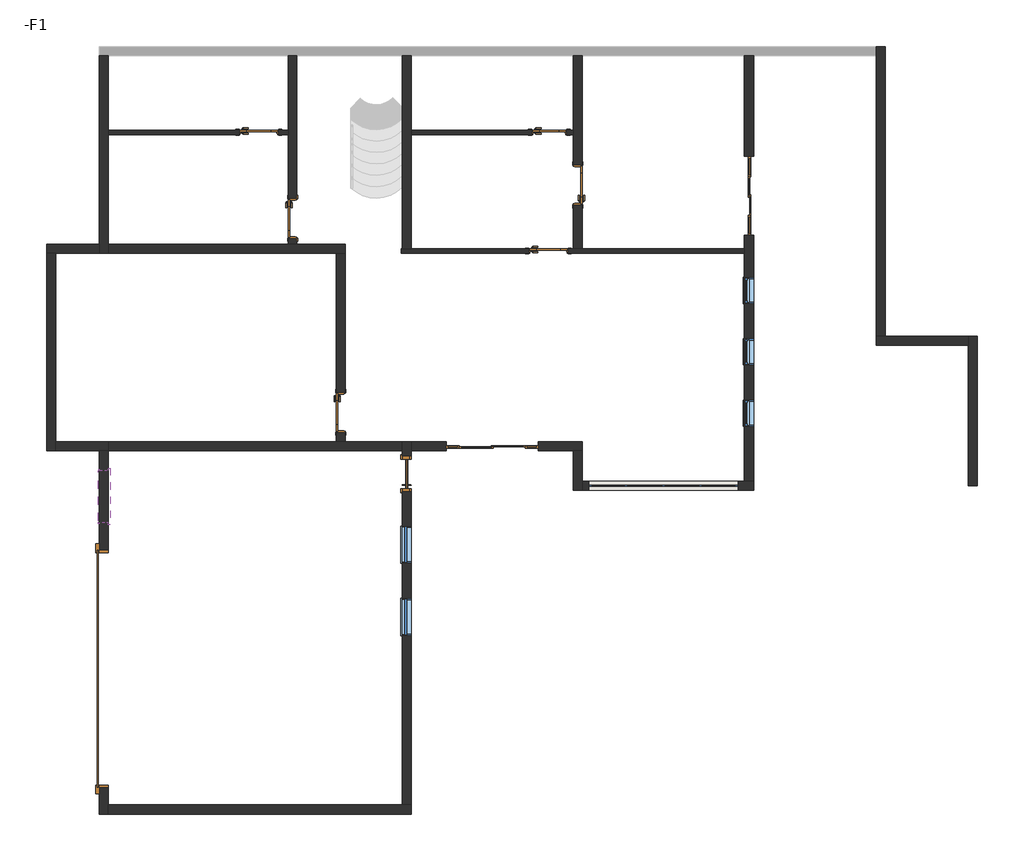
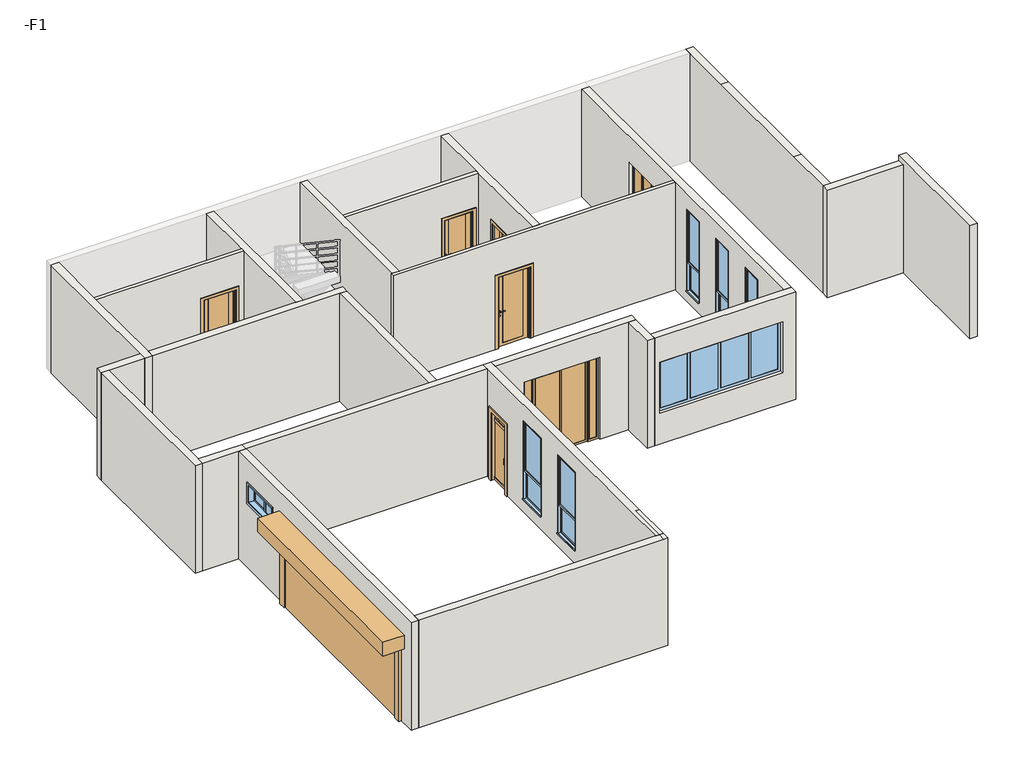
# One storey, part 1 of 3: 23 walls, 10 doors, 7 windows.
"""IFC4 building model written with IfcOpenShell, lengths in millimetres."""

from ifc_helpers import new_model, si_unit, frame, origin, place, context, project, spatial, polyline, outline, extrude, faceted_brep, transform, mapped, element, save
from components import door_800_x_2100_mm_cdd5fc6d, door_900_x_2100_mm_c85060e9, door_900_x_2100_mm_efe0f083, jlm5422_f6e8e53c, m0821_c18f4d9a, ym2124_6b214408, ym3267_0cb6c473, c0624_d918e3f5, c0823_e49a13fc, c1206_2babd59b, c3415_a57d7b54

model = new_model("IFC4")

# Units and contexts
model_context = context("Model", 3, world=origin())
ifc_project = project(units=[si_unit("LENGTHUNIT", "METRE", prefix="MILLI")], contexts=[model_context])

# Site, building, storey
site = spatial("IfcSite", under=ifc_project)
building = spatial("IfcBuilding", under=site)
storey = spatial("IfcBuildingStorey", under=building, Name="-F1", Elevation=-3300.0)

# Doors
placement = place(None, origin())
door_800_x_2100_mm_shape = door_800_x_2100_mm_cdd5fc6d(model_context)
element("IfcDoor", 1, ObjectType="单扇平开门-木门 : 800 x 2100 mm", at=placement, inside=storey, context=model_context, shape_type="MappedRepresentation", body=[
    mapped(door_800_x_2100_mm_shape, transform((-6705.9782681, -1381.0286905, -3300.0), x_axis=(1.0, 0.0, 0.0), y_axis=(0.0, 1.0, 0.0), z_axis=(0.0, 0.0, 1.0))),
])
door_900_x_2100_mm_shape = door_900_x_2100_mm_c85060e9(model_context)
element("IfcDoor", 2, ObjectType="单扇平开门-木门 : 900 x 2100 mm", at=placement, inside=storey, context=model_context, shape_type="MappedRepresentation", body=[
    mapped(door_900_x_2100_mm_shape, transform((-6055.9782681, -2581.0286905, -3300.0), x_axis=(0.0, 1.0, 0.0), y_axis=(-1.0, 0.0, 0.0), z_axis=(0.0, 0.0, 1.0))),
])
element("IfcDoor", 3, ObjectType="单扇平开门-木门 : 900 x 2100 mm", at=placement, inside=storey, context=model_context, shape_type="MappedRepresentation", body=[
    mapped(door_900_x_2100_mm_shape, transform((-12555.9782681, -3341.0286905, -3300.0), x_axis=(0.0, -1.0, 0.0), y_axis=(1.0, 0.0, 0.0), z_axis=(0.0, 0.0, 1.0))),
])
element("IfcDoor", 4, ObjectType="单扇平开门-木门 : 900 x 2100 mm", at=placement, inside=storey, context=model_context, shape_type="MappedRepresentation", body=[
    mapped(door_900_x_2100_mm_shape, transform((-11455.9782681, -7761.0286905, -3300.0), x_axis=(0.0, -1.0, 0.0), y_axis=(1.0, 0.0, 0.0), z_axis=(0.0, 0.0, 1.0))),
])
door_900_x_2100_mm_2_shape = door_900_x_2100_mm_efe0f083(model_context)
element("IfcDoor", 5, ObjectType="单扇平开门-木门 : 900 x 2100 mm", at=placement, inside=storey, context=model_context, shape_type="MappedRepresentation", body=[
    mapped(door_900_x_2100_mm_2_shape, transform((-6725.9782681, -4081.0286905, -3300.0), x_axis=(1.0, 0.0, 0.0), y_axis=(0.0, 1.0, 0.0), z_axis=(0.0, 0.0, 1.0))),
])
element("IfcDoor", 6, ObjectType="单扇平开门-木门 : 900 x 2100 mm", at=placement, inside=storey, context=model_context, shape_type="MappedRepresentation", body=[
    mapped(door_900_x_2100_mm_2_shape, transform((-13325.9782681, -1381.0286905, -3300.0), x_axis=(1.0, 0.0, 0.0), y_axis=(0.0, 1.0, 0.0), z_axis=(0.0, 0.0, 1.0))),
])
jlm5422_shape = jlm5422_f6e8e53c(model_context)
element("IfcDoor", 7, ObjectType="卷帘门 : JLM5422", at=placement, inside=storey, context=model_context, shape_type="MappedRepresentation", body=[
    mapped(jlm5422_shape, transform((-16855.9782681, -13606.0286905, -3300.0), x_axis=(0.0, 1.0, 0.0), y_axis=(-1.0, 0.0, 0.0), z_axis=(0.0, 0.0, 1.0))),
])
m0821_shape = m0821_c18f4d9a(model_context)
element("IfcDoor", 8, ObjectType="平开玻璃门B-单扇2 : M0821", at=placement, inside=storey, context=model_context, shape_type="MappedRepresentation", body=[
    mapped(m0821_shape, transform((-9955.9782681, -8911.0286905, -3300.0), x_axis=(0.0, 1.0, 0.0), y_axis=(-1.0, 0.0, 0.0), z_axis=(0.0, 0.0, 1.0))),
])
ym2124_shape = ym2124_6b214408(model_context)
element("IfcDoor", 9, ObjectType="移门-推拉门 : YM2124", at=placement, inside=storey, context=model_context, shape_type="MappedRepresentation", body=[
    mapped(ym2124_shape, transform((-8005.9782681, -8531.0286905, -3300.0), x_axis=(-1.0, 0.0, 0.0), y_axis=(0.0, -1.0, 0.0), z_axis=(0.0, 0.0, 1.0))),
])
ym3267_shape = ym3267_0cb6c473(model_context)
element("IfcDoor", 10, ObjectType="移门-推拉门 : YM3267", at=placement, inside=storey, context=model_context, shape_type="MappedRepresentation", body=[
    mapped(ym3267_shape, transform((-2155.9782681, -2831.0286905, -3300.0), x_axis=(0.0, -1.0, 0.0), y_axis=(1.0, 0.0, 0.0), z_axis=(0.0, 0.0, 1.0))),
])

# Walls
element("IfcWall", 11, ObjectType="外饰面 - 200mm", at=placement, inside=storey, context=model_context, shape_type="Brep", body=[
    faceted_brep([(3049.0217319, -9431.0286905, -3300.0), (3049.0217319, -6026.0286905, -3300.0), (3049.0217319, -6026.0286905, 0.0), (3049.0217319, -9431.0286905, 0.0), (2839.0217319, -9431.0286905, -3300.0), (2839.0217319, -9431.0286905, 0.0), (2839.0217319, -6026.0286905, 0.0), (2839.0217319, -6026.0286905, -150.0), (2839.0217319, -6026.0286905, -3300.0), (2839.0217319, -6236.0286905, -3300.0)], [[[0, 1, 2, 3]], [[4, 5, 6, 7, 8, 9]], [[1, 0, 4, 9, 8]], [[3, 2, 6, 5]], [[0, 3, 5, 4]], [[2, 1, 8, 7, 6]]]),
])
element("IfcWall", 12, ObjectType="外饰面 - 200mm", at=placement, inside=storey, context=model_context, shape_type="Brep", body=[
    faceted_brep([(2839.0217319, -6026.0286905, -3300.0), (949.0217319, -6026.0286905, -3300.0), (739.0217319, -6026.0286905, -3300.0), (739.0217319, -6026.0286905, -150.0), (949.0217319, -6026.0286905, -150.0), (2839.0217319, -6026.0286905, -150.0), (2839.0217319, -6236.0286905, -3300.0), (2839.0217319, -6236.0286905, -150.0), (739.0217319, -6236.0286905, -150.0), (739.0217319, -6236.0286905, -3300.0)], [[[0, 1, 2, 3, 4, 5]], [[6, 7, 8, 9]], [[2, 1, 0, 6, 9]], [[5, 4, 3, 8, 7]], [[0, 5, 7, 6]], [[3, 2, 9, 8]]]),
])
element("IfcWall", 13, ObjectType="外饰面 - 200mm", at=placement, inside=storey, context=model_context, shape_type="Brep", body=[
    faceted_brep([(949.0217319, -6026.0286905, -3300.0), (949.0217319, 573.9713095, -3300.0), (949.0217319, 573.9713095, -150.0), (949.0217319, -1118.8242174, -150.0), (949.0217319, -4618.8242174, -150.0), (949.0217319, -6026.0286905, -150.0), (739.0217319, -6026.0286905, -3300.0), (739.0217319, -6026.0286905, -150.0), (739.0217319, -4618.8242174, -150.0), (739.0217319, -1118.8242174, -150.0), (739.0217319, 363.9713095, -150.0), (739.0217319, 573.9713095, -150.0), (739.0217319, 573.9713095, -3300.0), (739.0217319, 363.9713095, -3300.0)], [[[0, 1, 2, 3, 4, 5]], [[6, 7, 8, 9, 10, 11, 12, 13]], [[0, 5, 7, 6]], [[2, 1, 12, 11]], [[1, 0, 6, 13, 12]], [[3, 2, 11, 10, 9]], [[5, 4, 8, 7]], [[4, 3, 9, 8]]]),
])
element("IfcWall", 14, ObjectType="外饰面 - 200mm", at=placement, inside=storey, context=model_context, shape_type="Brep", body=[
    faceted_brep([(-16960.9782681, 363.9713095, -3300.0), (-16960.9782681, -3926.0286905, -3300.0), (-16960.9782681, -4136.0286905, -3300.0), (-16960.9782681, -4136.0286905, -150.0), (-16960.9782681, -3926.0286905, -150.0), (-16960.9782681, 363.9713095, -150.0), (-16750.9782681, 363.9713095, -3300.0), (-16750.9782681, 363.9713095, -150.0), (-16750.9782681, -1331.0286905, -150.0), (-16750.9782681, -1431.0286905, -150.0), (-16750.9782681, -3931.0286905, -150.0), (-16750.9782681, -4131.0286905, -150.0), (-16750.9782681, -4136.0286905, -150.0), (-16750.9782681, -4136.0286905, -3300.0), (-16750.9782681, -4131.0286905, -3300.0), (-16750.9782681, -3931.0286905, -3300.0), (-16750.9782681, -1431.0286905, -3300.0), (-16750.9782681, -1331.0286905, -3300.0)], [[[0, 1, 2, 3, 4, 5]], [[6, 7, 8, 9, 10, 11, 12, 13, 14, 15, 16, 17]], [[2, 1, 0, 6, 17, 16, 15, 14, 13]], [[0, 5, 7, 6]], [[3, 2, 13, 12]], [[5, 4, 3, 12, 11, 10, 9, 8, 7]]]),
])
element("IfcWall", 15, ObjectType="外饰面 - 200mm", at=placement, inside=storey, context=model_context, shape_type="Brep", body=[
    faceted_brep([(-16960.9782681, -3926.0286905, -3300.0), (-18160.9782681, -3926.0286905, -3300.0), (-18160.9782681, -3926.0286905, -150.0), (-16960.9782681, -3926.0286905, -150.0), (-16960.9782681, -4136.0286905, -3300.0), (-16960.9782681, -4136.0286905, -150.0), (-17950.9782681, -4136.0286905, -150.0), (-18160.9782681, -4136.0286905, -150.0), (-18160.9782681, -4136.0286905, -3300.0), (-17950.9782681, -4136.0286905, -3300.0)], [[[0, 1, 2, 3]], [[4, 5, 6, 7, 8, 9]], [[1, 0, 4, 9, 8]], [[0, 3, 5, 4]], [[2, 1, 8, 7]], [[3, 2, 7, 6, 5]]]),
])
element("IfcWall", 16, ObjectType="外饰面 - 200mm", at=placement, inside=storey, context=model_context, shape_type="Brep", body=[
    faceted_brep([(-18160.9782681, -4136.0286905, -3300.0), (-18160.9782681, -8636.0286905, -3300.0), (-18160.9782681, -8636.0286905, -150.0), (-18160.9782681, -4136.0286905, -150.0), (-17950.9782681, -4136.0286905, -3300.0), (-17950.9782681, -4136.0286905, -150.0), (-17950.9782681, -8426.0286905, -150.0), (-17950.9782681, -8636.0286905, -150.0), (-17950.9782681, -8636.0286905, -3300.0), (-17950.9782681, -8426.0286905, -3300.0)], [[[0, 1, 2, 3]], [[4, 5, 6, 7, 8, 9]], [[1, 0, 4, 9, 8]], [[0, 3, 5, 4]], [[2, 1, 8, 7]], [[3, 2, 7, 6, 5]]]),
])
element("IfcWall", 17, ObjectType="外饰面 - 200mm", at=placement, inside=storey, context=model_context, shape_type="Brep", body=[
    faceted_brep([(-17950.9782681, -8636.0286905, -3300.0), (-16960.9782681, -8636.0286905, -3300.0), (-16750.9782681, -8636.0286905, -3300.0), (-16750.9782681, -8636.0286905, -150.0), (-16960.9782681, -8636.0286905, -150.0), (-17950.9782681, -8636.0286905, -150.0), (-17950.9782681, -8426.0286905, -3300.0), (-17950.9782681, -8426.0286905, -150.0), (-16750.9782681, -8426.0286905, -150.0), (-16750.9782681, -8426.0286905, -3300.0), (-16750.9782681, -8431.0286905, -3300.0), (-16750.9782681, -8631.0286905, -3300.0), (-16750.9782681, -8431.0286905, -150.0), (-16750.9782681, -8631.0286905, -150.0)], [[[0, 1, 2, 3, 4, 5]], [[6, 7, 8, 9]], [[2, 1, 0, 6, 9, 10, 11]], [[0, 5, 7, 6]], [[3, 2, 11, 10, 9, 8, 12, 13]], [[5, 4, 3, 13, 12, 8, 7]]]),
])
element("IfcWall", 18, ObjectType="外饰面 - 200mm", at=placement, inside=storey, context=model_context, shape_type="Brep", body=[
    faceted_brep([(-16960.9782681, -8636.0286905, -150.0), (-16960.9782681, -8636.0286905, -3300.0), (-16960.9782681, -10906.0286905, -3300.0), (-16960.9782681, -10906.0286905, -1100.0), (-16960.9782681, -16306.0286905, -1100.0), (-16960.9782681, -16306.0286905, -3300.0), (-16960.9782681, -16916.0286905, -3300.0), (-16960.9782681, -16916.0286905, -150.0), (-16960.9782681, -10281.0286905, -800.0), (-16960.9782681, -10281.0286905, -1400.0), (-16960.9782681, -9081.0286905, -1400.0), (-16960.9782681, -9081.0286905, -800.0), (-16750.9782681, -8636.0286905, -3300.0), (-16750.9782681, -8636.0286905, -150.0), (-16750.9782681, -16706.0286905, -150.0), (-16750.9782681, -16916.0286905, -150.0), (-16750.9782681, -16916.0286905, -3300.0), (-16750.9782681, -16706.0286905, -3300.0), (-16750.9782681, -16306.0286905, -3300.0), (-16750.9782681, -16306.0286905, -1100.0), (-16750.9782681, -10906.0286905, -1100.0), (-16750.9782681, -10906.0286905, -3300.0), (-16750.9782681, -10281.0286905, -800.0), (-16750.9782681, -9081.0286905, -800.0), (-16750.9782681, -9081.0286905, -1400.0), (-16750.9782681, -10281.0286905, -1400.0)], [[[0, 1, 2, 3, 4, 5, 6, 7], [8, 9, 10, 11]], [[12, 13, 14, 15, 16, 17, 18, 19, 20, 21], [22, 23, 24, 25]], [[1, 12, 21, 2]], [[16, 6, 5, 18, 17]], [[1, 0, 13, 12]], [[7, 6, 16, 15]], [[9, 8, 22, 25]], [[10, 9, 25, 24]], [[11, 10, 24, 23]], [[8, 11, 23, 22]], [[20, 3, 2, 21]], [[3, 20, 19, 4]], [[4, 19, 18, 5]], [[0, 7, 15, 14, 13]]]),
])
element("IfcWall", 19, ObjectType="外饰面 - 200mm", at=placement, inside=storey, context=model_context, shape_type="Brep", body=[
    faceted_brep([(-16750.9782681, -16916.0286905, -3300.0), (-9850.9782681, -16916.0286905, -3300.0), (-9850.9782681, -16916.0286905, -150.0), (-9955.9782681, -16916.0286905, -150.0), (-16750.9782681, -16916.0286905, -150.0), (-16750.9782681, -16706.0286905, -3300.0), (-16750.9782681, -16706.0286905, -150.0), (-10060.9782681, -16706.0286905, -150.0), (-9955.9782681, -16706.0286905, -150.0), (-9850.9782681, -16706.0286905, -150.0), (-9850.9782681, -16706.0286905, -3300.0), (-10060.9782681, -16706.0286905, -3300.0)], [[[0, 1, 2, 3, 4]], [[5, 6, 7, 8, 9, 10, 11]], [[1, 0, 5, 11, 10]], [[0, 4, 6, 5]], [[2, 1, 10, 9]], [[3, 2, 9, 8]], [[4, 3, 8, 7, 6]]]),
])
element("IfcWall", 20, ObjectType="外饰面 - 200mm", at=placement, inside=storey, context=model_context, shape_type="Brep", body=[
    faceted_brep([(-9850.9782681, -8751.0286905, -1200.0), (-9850.9782681, -8751.0286905, -3300.0), (-9850.9782681, -8636.0286905, -3300.0), (-9850.9782681, -8426.0286905, -3300.0), (-9850.9782681, -8426.0286905, -150.0), (-9850.9782681, -8636.0286905, -150.0), (-9850.9782681, -15551.0286905, -150.0), (-9850.9782681, -16706.0286905, -150.0), (-9850.9782681, -16706.0286905, -3300.0), (-9850.9782681, -9571.0286905, -3300.0), (-9850.9782681, -9571.0286905, -1200.0), (-9850.9782681, -12001.0286905, -625.0), (-9850.9782681, -12001.0286905, -2925.0), (-9850.9782681, -12851.0286905, -2925.0), (-9850.9782681, -12851.0286905, -625.0), (-9850.9782681, -10351.0286905, -625.0), (-9850.9782681, -10351.0286905, -2925.0), (-9850.9782681, -11201.0286905, -2925.0), (-9850.9782681, -11201.0286905, -625.0), (-10060.9782681, -8426.0286905, -3300.0), (-10060.9782681, -8431.0286905, -3300.0), (-10060.9782681, -8631.0286905, -3300.0), (-10060.9782681, -8751.0286905, -3300.0), (-10060.9782681, -8751.0286905, -1200.0), (-10060.9782681, -9571.0286905, -1200.0), (-10060.9782681, -9571.0286905, -3300.0), (-10060.9782681, -16706.0286905, -3300.0), (-10060.9782681, -16706.0286905, -150.0), (-10060.9782681, -15551.0286905, -150.0), (-10060.9782681, -8631.0286905, -150.0), (-10060.9782681, -8431.0286905, -150.0), (-10060.9782681, -8426.0286905, -150.0), (-10060.9782681, -12001.0286905, -625.0), (-10060.9782681, -12851.0286905, -625.0), (-10060.9782681, -12851.0286905, -2925.0), (-10060.9782681, -12001.0286905, -2925.0), (-10060.9782681, -10351.0286905, -625.0), (-10060.9782681, -11201.0286905, -625.0), (-10060.9782681, -11201.0286905, -2925.0), (-10060.9782681, -10351.0286905, -2925.0), (-9955.9782681, -16706.0286905, -150.0), (-9955.9782681, -15551.0286905, -150.0)], [[[0, 1, 2, 3, 4, 5, 6, 7, 8, 9, 10], [11, 12, 13, 14], [15, 16, 17, 18]], [[19, 20, 21, 22, 23, 24, 25, 26, 27, 28, 29, 30, 31], [32, 33, 34, 35], [36, 37, 38, 39]], [[9, 8, 26, 25]], [[3, 2, 1, 22, 21, 20, 19]], [[8, 7, 40, 27, 26]], [[31, 4, 3, 19]], [[12, 11, 32, 35]], [[13, 12, 35, 34]], [[14, 13, 34, 33]], [[11, 14, 33, 32]], [[16, 15, 36, 39]], [[17, 16, 39, 38]], [[18, 17, 38, 37]], [[15, 18, 37, 36]], [[25, 24, 10, 9]], [[23, 22, 1, 0]], [[24, 23, 0, 10]], [[7, 6, 41, 40]], [[6, 5, 4, 31, 30, 29, 28, 27, 40, 41]]]),
])
element("IfcWall", 21, ObjectType="外饰面 - 200mm", at=placement, inside=storey, context=model_context, shape_type="Brep", body=[
    faceted_brep([(-9850.9782681, -8636.0286905, -150.0), (-9850.9782681, -8636.0286905, -3300.0), (-9055.9782681, -8636.0286905, -3300.0), (-9055.9782681, -8636.0286905, -900.0), (-6955.9782681, -8636.0286905, -900.0), (-6955.9782681, -8636.0286905, -3300.0), (-6160.9782681, -8636.0286905, -3300.0), (-5950.9782681, -8636.0286905, -3300.0), (-5950.9782681, -8636.0286905, -150.0), (-6160.9782681, -8636.0286905, -150.0), (-9850.9782681, -8426.0286905, -3300.0), (-9850.9782681, -8426.0286905, -150.0), (-5950.9782681, -8426.0286905, -150.0), (-5950.9782681, -8426.0286905, -3300.0), (-6955.9782681, -8426.0286905, -3300.0), (-6955.9782681, -8426.0286905, -900.0), (-9055.9782681, -8426.0286905, -900.0), (-9055.9782681, -8426.0286905, -3300.0)], [[[0, 1, 2, 3, 4, 5, 6, 7, 8, 9]], [[10, 11, 12, 13, 14, 15, 16, 17]], [[1, 10, 17, 2]], [[13, 7, 6, 5, 14]], [[1, 0, 11, 10]], [[8, 7, 13, 12]], [[16, 3, 2, 17]], [[3, 16, 15, 4]], [[4, 15, 14, 5]], [[0, 9, 8, 12, 11]]]),
])
element("IfcWall", 22, ObjectType="外饰面 - 200mm", at=placement, inside=storey, context=model_context, shape_type="Brep", body=[
    faceted_brep([(-6160.9782681, -8636.0286905, -3300.0), (-6160.9782681, -9536.0286905, -3300.0), (-6160.9782681, -9536.0286905, -150.0), (-6160.9782681, -8636.0286905, -150.0), (-5950.9782681, -8636.0286905, -3300.0), (-5950.9782681, -8636.0286905, -150.0), (-5950.9782681, -9326.0286905, -150.0), (-5950.9782681, -9536.0286905, -150.0), (-5950.9782681, -9536.0286905, -3300.0), (-5950.9782681, -9326.0286905, -3300.0)], [[[0, 1, 2, 3]], [[4, 5, 6, 7, 8, 9]], [[1, 0, 4, 9, 8]], [[0, 3, 5, 4]], [[2, 1, 8, 7]], [[3, 2, 7, 6, 5]]]),
])
element("IfcWall", 23, ObjectType="外饰面 - 200mm", at=placement, inside=storey, context=model_context, shape_type="Brep", body=[
    faceted_brep([(-5950.9782681, -9536.0286905, -3300.0), (-2050.9782681, -9536.0286905, -3300.0), (-2050.9782681, -9536.0286905, -150.0), (-5950.9782681, -9536.0286905, -150.0), (-5805.9782681, -9536.0286905, -2400.0), (-5805.9782681, -9536.0286905, -900.0), (-2405.9782681, -9536.0286905, -900.0), (-2405.9782681, -9536.0286905, -2400.0), (-2050.9782681, -9326.0286905, -3300.0), (-2260.9782681, -9326.0286905, -3300.0), (-5950.9782681, -9326.0286905, -3300.0), (-5950.9782681, -9326.0286905, -150.0), (-2260.9782681, -9326.0286905, -150.0), (-2050.9782681, -9326.0286905, -150.0), (-5805.9782681, -9326.0286905, -900.0), (-5805.9782681, -9326.0286905, -2400.0), (-2405.9782681, -9326.0286905, -2400.0), (-2405.9782681, -9326.0286905, -900.0)], [[[0, 1, 2, 3], [4, 5, 6, 7]], [[8, 9, 10, 11, 12, 13], [14, 15, 16, 17]], [[1, 0, 10, 9, 8]], [[0, 3, 11, 10]], [[2, 1, 8, 13]], [[3, 2, 13, 12, 11]], [[4, 15, 14, 5]], [[6, 17, 16, 7]], [[15, 4, 7, 16]], [[17, 6, 5, 14]]]),
])
element("IfcWall", 24, ObjectType="外饰面 - 200mm", at=placement, inside=storey, context=model_context, shape_type="Brep", body=[
    faceted_brep([(-2050.9782681, -9326.0286905, -150.0), (-2050.9782681, -9326.0286905, -3300.0), (-2050.9782681, -3731.0286905, -3300.0), (-2050.9782681, -3731.0286905, -900.0), (-2050.9782681, -1931.0286905, -900.0), (-2050.9782681, -1931.0286905, -3300.0), (-2050.9782681, 363.9713095, -3300.0), (-2050.9782681, 363.9713095, -150.0), (-2050.9782681, -4681.0286905, -600.0), (-2050.9782681, -4681.0286905, -3000.0), (-2050.9782681, -5281.0286905, -3000.0), (-2050.9782681, -5281.0286905, -600.0), (-2050.9782681, -6081.0286905, -600.0), (-2050.9782681, -6081.0286905, -3000.0), (-2050.9782681, -6681.0286905, -3000.0), (-2050.9782681, -6681.0286905, -600.0), (-2050.9782681, -7481.0286905, -600.0), (-2050.9782681, -7481.0286905, -3000.0), (-2050.9782681, -8081.0286905, -3000.0), (-2050.9782681, -8081.0286905, -600.0), (-2260.9782681, -9326.0286905, -3300.0), (-2260.9782681, -9326.0286905, -150.0), (-2260.9782681, -4131.0286905, -150.0), (-2260.9782681, -4031.0286905, -150.0), (-2260.9782681, 363.9713095, -150.0), (-2260.9782681, 363.9713095, -3300.0), (-2260.9782681, -1931.0286905, -3300.0), (-2260.9782681, -1931.0286905, -900.0), (-2260.9782681, -3731.0286905, -900.0), (-2260.9782681, -3731.0286905, -3300.0), (-2260.9782681, -4031.0286905, -3300.0), (-2260.9782681, -4131.0286905, -3300.0), (-2260.9782681, -4681.0286905, -600.0), (-2260.9782681, -5281.0286905, -600.0), (-2260.9782681, -5281.0286905, -3000.0), (-2260.9782681, -4681.0286905, -3000.0), (-2260.9782681, -6081.0286905, -600.0), (-2260.9782681, -6681.0286905, -600.0), (-2260.9782681, -6681.0286905, -3000.0), (-2260.9782681, -6081.0286905, -3000.0), (-2260.9782681, -7481.0286905, -600.0), (-2260.9782681, -8081.0286905, -600.0), (-2260.9782681, -8081.0286905, -3000.0), (-2260.9782681, -7481.0286905, -3000.0)], [[[0, 1, 2, 3, 4, 5, 6, 7], [8, 9, 10, 11], [12, 13, 14, 15], [16, 17, 18, 19]], [[20, 21, 22, 23, 24, 25, 26, 27, 28, 29, 30, 31], [32, 33, 34, 35], [36, 37, 38, 39], [40, 41, 42, 43]], [[1, 20, 31, 30, 29, 2]], [[25, 6, 5, 26]], [[1, 0, 21, 20]], [[7, 6, 25, 24]], [[9, 8, 32, 35]], [[10, 9, 35, 34]], [[11, 10, 34, 33]], [[8, 11, 33, 32]], [[13, 12, 36, 39]], [[14, 13, 39, 38]], [[15, 14, 38, 37]], [[12, 15, 37, 36]], [[17, 16, 40, 43]], [[18, 17, 43, 42]], [[19, 18, 42, 41]], [[16, 19, 41, 40]], [[28, 3, 2, 29]], [[3, 28, 27, 4]], [[4, 27, 26, 5]], [[0, 7, 24, 23, 22, 21]]]),
])
element("IfcWall", 25, ObjectType="常规 - 200mm - 实心", at=placement, inside=storey, context=model_context, shape_type="Brep", body=[
    faceted_brep([(-6155.9782681, 363.9713095, -150.0), (-6155.9782681, 363.9713095, -3300.0), (-6155.9782681, -1331.0286905, -3300.0), (-6155.9782681, -1431.0286905, -3300.0), (-6155.9782681, -2131.0286905, -3300.0), (-6155.9782681, -2131.0286905, -1200.0), (-6155.9782681, -3031.0286905, -1200.0), (-6155.9782681, -3031.0286905, -3300.0), (-6155.9782681, -4031.0286905, -3300.0), (-6155.9782681, -4031.0286905, -150.0), (-6155.9782681, -1431.0286905, -150.0), (-6155.9782681, -1331.0286905, -150.0), (-5955.9782681, 363.9713095, -3300.0), (-5955.9782681, 363.9713095, -150.0), (-5955.9782681, -4031.0286905, -150.0), (-5955.9782681, -4031.0286905, -3300.0), (-5955.9782681, -3031.0286905, -3300.0), (-5955.9782681, -3031.0286905, -1200.0), (-5955.9782681, -2131.0286905, -1200.0), (-5955.9782681, -2131.0286905, -3300.0)], [[[0, 1, 2, 3, 4, 5, 6, 7, 8, 9, 10, 11]], [[12, 13, 14, 15, 16, 17, 18, 19]], [[1, 12, 19, 4, 3, 2]], [[15, 8, 7, 16]], [[1, 0, 13, 12]], [[9, 8, 15, 14]], [[18, 5, 4, 19]], [[5, 18, 17, 6]], [[6, 17, 16, 7]], [[0, 11, 10, 9, 14, 13]]]),
])
element("IfcWall", 26, ObjectType="常规 - 200mm - 实心", at=placement, inside=storey, context=model_context, shape_type="Brep", body=[
    faceted_brep([(-10055.9782681, 363.9713095, -3300.0), (-10055.9782681, -4031.0286905, -3300.0), (-10055.9782681, -4031.0286905, -150.0), (-10055.9782681, 363.9713095, -150.0), (-9855.9782681, 363.9713095, -3300.0), (-9855.9782681, 363.9713095, -150.0), (-9855.9782681, -1331.0286905, -150.0), (-9855.9782681, -1431.0286905, -150.0), (-9855.9782681, -4031.0286905, -150.0), (-9855.9782681, -4031.0286905, -3300.0), (-9855.9782681, -1431.0286905, -3300.0), (-9855.9782681, -1331.0286905, -3300.0)], [[[0, 1, 2, 3]], [[4, 5, 6, 7, 8, 9, 10, 11]], [[1, 0, 4, 11, 10, 9]], [[0, 3, 5, 4]], [[3, 2, 8, 7, 6, 5]], [[2, 1, 9, 8]]]),
])
element("IfcWall", 27, ObjectType="常规 - 200mm - 实心", at=placement, inside=storey, context=model_context, shape_type="Brep", body=[
    faceted_brep([(-12655.9782681, 363.9713095, -150.0), (-12655.9782681, 363.9713095, -3300.0), (-12655.9782681, -1331.0286905, -3300.0), (-12655.9782681, -1431.0286905, -3300.0), (-12655.9782681, -2891.0286905, -3300.0), (-12655.9782681, -2891.0286905, -1200.0), (-12655.9782681, -3791.0286905, -1200.0), (-12655.9782681, -3791.0286905, -3300.0), (-12655.9782681, -3931.0286905, -3300.0), (-12655.9782681, -3931.0286905, -150.0), (-12655.9782681, -1431.0286905, -150.0), (-12655.9782681, -1331.0286905, -150.0), (-12455.9782681, 363.9713095, -3300.0), (-12455.9782681, 363.9713095, -150.0), (-12455.9782681, 358.9713095, -150.0), (-12455.9782681, -3691.0286905, -150.0), (-12455.9782681, -3931.0286905, -150.0), (-12455.9782681, -3931.0286905, -3300.0), (-12455.9782681, -3791.0286905, -3300.0), (-12455.9782681, -3791.0286905, -1200.0), (-12455.9782681, -2891.0286905, -1200.0), (-12455.9782681, -2891.0286905, -3300.0)], [[[0, 1, 2, 3, 4, 5, 6, 7, 8, 9, 10, 11]], [[12, 13, 14, 15, 16, 17, 18, 19, 20, 21]], [[1, 12, 21, 4, 3, 2]], [[17, 8, 7, 18]], [[1, 0, 13, 12]], [[9, 8, 17, 16]], [[6, 19, 18, 7]], [[19, 6, 5, 20]], [[20, 5, 4, 21]], [[13, 0, 11, 10, 9, 16, 15, 14]]]),
])
element("IfcWall", 28, ObjectType="常规 - 200mm - 实心", at=placement, inside=storey, context=model_context, shape_type="Brep", body=[
    faceted_brep([(-16750.9782681, -4131.0286905, -3300.0), (-11555.9782681, -4131.0286905, -3300.0), (-11355.9782681, -4131.0286905, -3300.0), (-11355.9782681, -4131.0286905, -150.0), (-11555.9782681, -4131.0286905, -150.0), (-16750.9782681, -4131.0286905, -150.0), (-16750.9782681, -3931.0286905, -3300.0), (-16750.9782681, -3931.0286905, -150.0), (-12655.9782681, -3931.0286905, -150.0), (-12455.9782681, -3931.0286905, -150.0), (-11355.9782681, -3931.0286905, -150.0), (-11355.9782681, -3931.0286905, -3300.0), (-12455.9782681, -3931.0286905, -3300.0), (-12655.9782681, -3931.0286905, -3300.0)], [[[0, 1, 2, 3, 4, 5]], [[6, 7, 8, 9, 10, 11, 12, 13]], [[2, 1, 0, 6, 13, 12, 11]], [[0, 5, 7, 6]], [[3, 2, 11, 10]], [[5, 4, 3, 10, 9, 8, 7]]]),
])
element("IfcWall", 29, ObjectType="常规 - 200mm - 实心", at=placement, inside=storey, context=model_context, shape_type="SweptSolid", body=[
    extrude(outline(polyline([(-4131.0286905, -150.0), (-4131.0286905, -3300.0), (-7311.0286905, -3300.0), (-7311.0286905, -1200.0), (-8211.0286905, -1200.0), (-8211.0286905, -3300.0), (-8431.0286905, -3300.0), (-8431.0286905, -150.0), (-4131.0286905, -150.0)])), frame((-11555.9782681, 0.0, 0.0), z_axis=(1.0, 0.0, 0.0), x_axis=(0.0, 1.0, 0.0)), (0.0, 0.0, 1.0), 200.0),
])
element("IfcWall", 30, ObjectType="常规 - 200mm - 实心", at=placement, inside=storey, context=model_context, shape_type="Brep", body=[
    faceted_brep([(-16750.9782681, -8631.0286905, -3300.0), (-10060.9782681, -8631.0286905, -3300.0), (-10060.9782681, -8631.0286905, -150.0), (-16750.9782681, -8631.0286905, -150.0), (-16750.9782681, -8431.0286905, -3300.0), (-16750.9782681, -8431.0286905, -150.0), (-11555.9782681, -8431.0286905, -150.0), (-11355.9782681, -8431.0286905, -150.0), (-10060.9782681, -8431.0286905, -150.0), (-10060.9782681, -8431.0286905, -3300.0), (-11355.9782681, -8431.0286905, -3300.0), (-11555.9782681, -8431.0286905, -3300.0)], [[[0, 1, 2, 3]], [[4, 5, 6, 7, 8, 9, 10, 11]], [[1, 0, 4, 11, 10, 9]], [[0, 3, 5, 4]], [[2, 1, 9, 8]], [[3, 2, 8, 7, 6, 5]]]),
])
element("IfcWall", 31, ObjectType="常规 - 100mm 砌体", at=placement, inside=storey, context=model_context, shape_type="SweptSolid", body=[
    extrude(outline(polyline([(-150.0, -16750.9782681), (-3300.0, -16750.9782681), (-3300.0, -13775.9782681), (-1200.0, -13775.9782681), (-1200.0, -12875.9782681), (-3300.0, -12875.9782681), (-3300.0, -12655.9782681), (-150.0, -12655.9782681), (-150.0, -16750.9782681)])), frame((0.0, -1431.0286905, 0.0), z_axis=(0.0, 1.0, 0.0), x_axis=(0.0, 0.0, 1.0)), (0.0, 0.0, 1.0), 100.0),
])
element("IfcWall", 32, ObjectType="常规 - 100mm 砌体", at=placement, inside=storey, context=model_context, shape_type="SweptSolid", body=[
    extrude(outline(polyline([(-3300.0, -6155.9782681), (-150.0, -6155.9782681), (-150.0, -9855.9782681), (-3300.0, -9855.9782681), (-3300.0, -7105.9782681), (-1200.0, -7105.9782681), (-1200.0, -6305.9782681), (-3300.0, -6305.9782681), (-3300.0, -6155.9782681)])), frame((0.0, -1431.0286905, 0.0), z_axis=(0.0, 1.0, 0.0), x_axis=(0.0, 0.0, 1.0)), (0.0, 0.0, 1.0), 100.0),
])
element("IfcWall", 33, ObjectType="常规 - 100mm 砌体", at=placement, inside=storey, context=model_context, shape_type="Brep", body=[
    faceted_brep([(-10075.9782681, -4131.0286905, -150.0), (-10075.9782681, -4131.0286905, -3300.0), (-7175.9782681, -4131.0286905, -3300.0), (-7175.9782681, -4131.0286905, -1200.0), (-6275.9782681, -4131.0286905, -1200.0), (-6275.9782681, -4131.0286905, -3300.0), (-2260.9782681, -4131.0286905, -3300.0), (-2260.9782681, -4131.0286905, -150.0), (-10075.9782681, -4031.0286905, -3300.0), (-10075.9782681, -4031.0286905, -150.0), (-10055.9782681, -4031.0286905, -150.0), (-9855.9782681, -4031.0286905, -150.0), (-6155.9782681, -4031.0286905, -150.0), (-5955.9782681, -4031.0286905, -150.0), (-2260.9782681, -4031.0286905, -150.0), (-2260.9782681, -4031.0286905, -3300.0), (-5955.9782681, -4031.0286905, -3300.0), (-6155.9782681, -4031.0286905, -3300.0), (-6275.9782681, -4031.0286905, -3300.0), (-6275.9782681, -4031.0286905, -1200.0), (-7175.9782681, -4031.0286905, -1200.0), (-7175.9782681, -4031.0286905, -3300.0), (-9855.9782681, -4031.0286905, -3300.0), (-10055.9782681, -4031.0286905, -3300.0)], [[[0, 1, 2, 3, 4, 5, 6, 7]], [[8, 9, 10, 11, 12, 13, 14, 15, 16, 17, 18, 19, 20, 21, 22, 23]], [[1, 8, 23, 22, 21, 2]], [[15, 6, 5, 18, 17, 16]], [[1, 0, 9, 8]], [[7, 6, 15, 14]], [[4, 19, 18, 5]], [[19, 4, 3, 20]], [[20, 3, 2, 21]], [[0, 7, 14, 13, 12, 11, 10, 9]]]),
])

# Windows
c0624_shape = c0624_d918e3f5(model_context)
element("IfcWindow", 34, ObjectType="上下拉窗1 : C0624", at=placement, inside=storey, context=model_context, shape_type="MappedRepresentation", body=[
    mapped(c0624_shape, transform((-2156.2167284, -4981.0286905, -3300.0), x_axis=(0.0, 1.0, 0.0), y_axis=(-1.0, 0.0, 0.0), z_axis=(0.0, 0.0, 1.0))),
])
element("IfcWindow", 35, ObjectType="上下拉窗1 : C0624", at=placement, inside=storey, context=model_context, shape_type="MappedRepresentation", body=[
    mapped(c0624_shape, transform((-2156.2167284, -6381.0286905, -3300.0), x_axis=(0.0, 1.0, 0.0), y_axis=(-1.0, 0.0, 0.0), z_axis=(0.0, 0.0, 1.0))),
])
element("IfcWindow", 36, ObjectType="上下拉窗1 : C0624", at=placement, inside=storey, context=model_context, shape_type="MappedRepresentation", body=[
    mapped(c0624_shape, transform((-2156.2167284, -7781.0286905, -3300.0), x_axis=(0.0, 1.0, 0.0), y_axis=(-1.0, 0.0, 0.0), z_axis=(0.0, 0.0, 1.0))),
])
c0823_shape = c0823_e49a13fc(model_context)
element("IfcWindow", 37, ObjectType="上下拉窗1 : C0823", at=placement, inside=storey, context=model_context, shape_type="MappedRepresentation", body=[
    mapped(c0823_shape, transform((-9956.2167284, -12426.0286905, -3225.0), x_axis=(0.0, 1.0, 0.0), y_axis=(-1.0, 0.0, 0.0), z_axis=(0.0, 0.0, 1.0))),
])
element("IfcWindow", 38, ObjectType="上下拉窗1 : C0823", at=placement, inside=storey, context=model_context, shape_type="MappedRepresentation", body=[
    mapped(c0823_shape, transform((-9956.2167284, -10776.0286905, -3225.0), x_axis=(0.0, 1.0, 0.0), y_axis=(-1.0, 0.0, 0.0), z_axis=(0.0, 0.0, 1.0))),
])
c1206_shape = c1206_2babd59b(model_context)
element("IfcWindow", 39, ObjectType="推拉窗5 - 带贴面 : C1206", at=placement, inside=storey, context=model_context, shape_type="MappedRepresentation", body=[
    mapped(c1206_shape, transform((-16789.1048306, -9671.5036905, -2305.0), x_axis=(0.0, -1.0, 0.0), y_axis=(1.0, 0.0, 0.0), z_axis=(0.0, 0.0, 1.0))),
])
c3415_shape = c3415_a57d7b54(model_context)
element("IfcWindow", 40, ObjectType="窗户 : C3415", at=placement, inside=storey, context=model_context, shape_type="MappedRepresentation", body=[
    mapped(c3415_shape, transform((-4105.9782681, -9431.0286905, -3200.0), x_axis=(1.0, 0.0, 0.0), y_axis=(0.0, 1.0, 0.0), z_axis=(0.0, 0.0, 1.0))),
])

save(model, "model.ifc")
